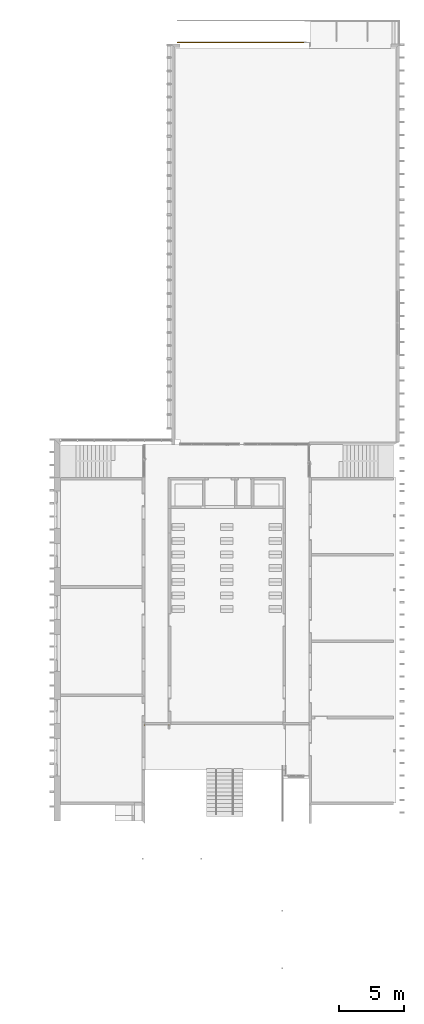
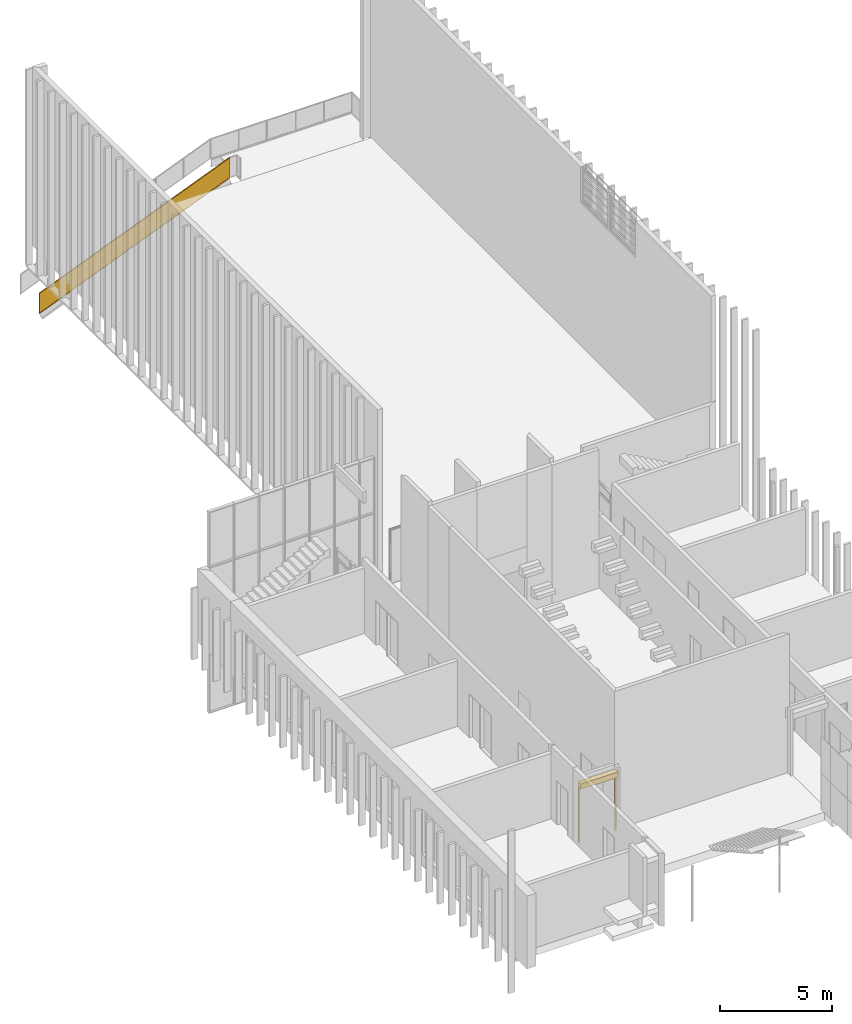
# One storey, part 59 of 62: 1 door, 1 railing.
"""IFC2X3 building model written with IfcOpenShell, lengths in millimetres."""

from ifc_helpers import new_model, entity, si_unit, converted_unit, derived_unit, money_unit, direction, frame, origin_with_axes, place, context, subcontext, project, spatial, faceted_brep, material, material_list, type_object, element, save


model = new_model("IFC2X3")

# Units and contexts
model_context = context("Model", 3, precision=0.01, world=origin_with_axes(), true_north=direction((0.0, 1.0)))
body_context = subcontext(model_context, "Body", "Model", "MODEL_VIEW")
ifc_project = project(units=[si_unit("LENGTHUNIT", "METRE", prefix="MILLI"), si_unit("AREAUNIT", "SQUARE_METRE"), si_unit("VOLUMEUNIT", "CUBIC_METRE"), converted_unit("PLANEANGLEUNIT", "DEGREE", entity("IfcPlaneAngleMeasure", 0.0174532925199), si_unit("PLANEANGLEUNIT", "RADIAN"), dimensions=[0, 0, 0, 0, 0, 0, 0]), si_unit("SOLIDANGLEUNIT", "STERADIAN"), money_unit("EUR"), converted_unit("TIMEUNIT", "Year", entity("IfcTimeMeasure", 31556926.0), si_unit("TIMEUNIT", "SECOND"), dimensions=[0, 0, 1, 0, 0, 0, 0]), si_unit("MASSUNIT", "GRAM", prefix="KILO"), si_unit("THERMODYNAMICTEMPERATUREUNIT", "DEGREE_CELSIUS"), si_unit("LUMINOUSINTENSITYUNIT", "LUMEN"), si_unit("ENERGYUNIT", "JOULE", prefix="MEGA"), derived_unit("THERMALCONDUCTANCEUNIT", [(si_unit("POWERUNIT", "WATT"), 1), (si_unit("LENGTHUNIT", "METRE"), -1), (si_unit("THERMODYNAMICTEMPERATUREUNIT", "KELVIN"), -1)]), derived_unit("SPECIFICHEATCAPACITYUNIT", [(si_unit("ENERGYUNIT", "JOULE"), 1), (si_unit("MASSUNIT", "GRAM", prefix="KILO"), -1), (si_unit("THERMODYNAMICTEMPERATUREUNIT", "KELVIN"), -1)]), derived_unit("MASSDENSITYUNIT", [(si_unit("MASSUNIT", "GRAM", prefix="KILO"), 1), (si_unit("VOLUMEUNIT", "CUBIC_METRE"), -1)])], contexts=[model_context])

# Site, building, storey
site_placement = place(None, origin_with_axes())
site = spatial("IfcSite", under=ifc_project, at=site_placement, Name="Puškini 31, Narva", CompositionType="ELEMENT")
building_placement = place(site_placement, origin_with_axes())
building = spatial("IfcBuilding", under=site, at=building_placement, Name="Narva Riigigümnaasium", CompositionType="ELEMENT")
storey_placement = place(building_placement, frame((0.0, 0.0, 660.0), z_axis=(0.0, 0.0, 1.0), x_axis=(1.0, 0.0, 0.0)))
storey = spatial("IfcBuildingStorey", under=building, at=storey_placement, Name="2.korrus +0.66", CompositionType="ELEMENT", Elevation=660.0)

# Door
ifc_material_1 = material(Name="ET-05_Teras")
door_style = type_object("IfcDoorStyle", Name="TTK-3", ConstructionType="NOTDEFINED", OperationType="NOTDEFINED", ParameterTakesPrecedence=False, Sizeable=False)
door_placement = place(storey_placement, frame((34819.9997369, 202065.000012, 0.0), z_axis=(0.0, 0.0, 1.0), x_axis=(1.0, 0.0, 0.0)))
element("IfcDoor", 1, at=door_placement, inside=storey, type_object=door_style, material=ifc_material_1, Name="Tuletõkkekardin", ObjectType="DOOR", context=body_context, shape_type="Brep", body=[
    faceted_brep([(0.0, 0.0, 3005.0), (1959.99988526, 0.0, 3005.0), (1959.99988526, 0.0, 3295.0), (0.0, 0.0, 3295.0), (0.0, 235.0, 3005.0), (1959.99988526, 235.0, 3005.0), (1959.99988526, 235.0, 3295.0), (0.0, 235.0, 3295.0)], [[[0, 1, 2, 3]], [[0, 4, 5, 1]], [[1, 5, 6, 2]], [[3, 2, 6, 7]], [[4, 0, 3, 7]], [[5, 4, 7, 6]]]),
    faceted_brep([(0.0, 175.0, 0.0), (79.9998985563, 175.0, 0.0), (79.9998985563, 175.0, 3005.0), (0.0, 175.0, 3005.0), (0.0, 235.0, 0.0), (79.9998985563, 235.0, 0.0), (79.9998985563, 235.0, 3005.0), (0.0, 235.0, 3005.0)], [[[0, 1, 2, 3]], [[0, 4, 5, 1]], [[1, 5, 6, 2]], [[3, 2, 6, 7]], [[4, 0, 3, 7]], [[5, 4, 7, 6]]]),
    faceted_brep([(1879.99998671, 175.0, 0.0), (1959.99988526, 175.0, 0.0), (1959.99988526, 175.0, 3005.0), (1879.99998671, 175.0, 3005.0), (1879.99998671, 235.0, 0.0), (1959.99988526, 235.0, 0.0), (1959.99988526, 235.0, 3005.0), (1879.99998671, 235.0, 3005.0)], [[[0, 1, 2, 3]], [[0, 4, 5, 1]], [[1, 5, 6, 2]], [[3, 2, 6, 7]], [[4, 0, 3, 7]], [[5, 4, 7, 6]]]),
])

# Railing
ifc_material_2 = material(Name="ET-07_Teras - Roostevaba")
ifc_material_3 = material(Name="ET-03_Raud")
ifc_material_4 = material(Name="Alumiiniumprofiil")
ifc_material_5 = material(Name="Salto-võrk")
ifc_material_6 = material(Name="ET-06_Teras - Konstruktsioon")
ifc_material_list = material_list([ifc_material_2, ifc_material_2, ifc_material_3, ifc_material_4, ifc_material_5, ifc_material_6, ifc_material_4, ifc_material_5, ifc_material_6, ifc_material_4, ifc_material_5, ifc_material_6, ifc_material_4, ifc_material_5, ifc_material_6, ifc_material_4, ifc_material_5, ifc_material_6, ifc_material_4, ifc_material_5, ifc_material_6, ifc_material_4, ifc_material_5, ifc_material_6, ifc_material_4, ifc_material_5])
railing_type = type_object("IfcRailingType", Name="Railing Type", PredefinedType="NOTDEFINED")
railing_placement = place(storey_placement, frame((47205.0000002, 254690.0, -3943.14809538), z_axis=(0.0, 0.0, 1.0), x_axis=(1.0, 0.0, 0.0)))
element("IfcRailing", 2, at=railing_placement, inside=storey, type_object=railing_type, material=ifc_material_list, Name="Piire", PredefinedType="NOTDEFINED", context=body_context, shape_type="Brep", body=[
    faceted_brep([(-43.3044717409, 30.0, 3941.12839087), (-43.3044717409, -30.0, 3941.12839087), (-43.3044717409, -30.0, 5041.12839087), (-43.3044717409, 30.0, 5041.12839087), (-33.3044717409, 30.0, 3945.16779989), (-33.3044717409, -30.0, 3945.16779989), (-33.3044717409, -30.0, 5045.16779989), (-33.3044717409, 30.0, 5045.16779989)], [[[0, 1, 2, 3]], [[0, 4, 5, 1]], [[1, 5, 6, 2]], [[3, 2, 6, 7]], [[4, 0, 3, 7]], [[5, 4, 7, 6]]]),
    faceted_brep([(-9804.99999821, 30.0, -2.01970450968), (-9804.99999821, -30.0, -2.01970450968), (-9804.99999821, -30.0, 1097.98029549), (-9804.99999821, 30.0, 1097.98029549), (-9794.99999821, 30.0, 2.01970450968), (-9794.99999821, -30.0, 2.01970450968), (-9794.99999821, -30.0, 1102.01970451), (-9794.99999821, 30.0, 1102.01970451)], [[[0, 1, 2, 3]], [[0, 4, 5, 1]], [[1, 5, 6, 2]], [[3, 2, 6, 7]], [[4, 0, 3, 7]], [[5, 4, 7, 6]]]),
    faceted_brep([(-38.3044717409, 30.0, 5043.14809538), (-30.813700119, 30.0, 5024.60386877), (-9792.50922659, 30.0, 1081.45577339), (-9799.99999821, 30.0, 1100.0), (-38.3044717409, -30.0, 5043.14809538), (-30.813700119, -30.0, 5024.60386877), (-9792.50922659, -30.0, 1081.45577339), (-9799.99999821, -30.0, 1100.0)], [[[0, 1, 2, 3]], [[0, 4, 5, 1]], [[1, 5, 6, 2]], [[3, 2, 6, 7]], [[4, 0, 3, 7]], [[5, 4, 7, 6]]]),
    faceted_brep([(-1248.51641255, -30.0, 3454.29399248), (-48.3044717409, -30.0, 3939.10868636), (-48.3044717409, -30.0, 5019.10868636), (-1248.51641255, -30.0, 4534.29399248), (-78.3044717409, -30.0, 4974.63537582), (-78.3044717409, -30.0, 3959.34554278), (-1218.51641255, -30.0, 3498.76730302), (-1218.51641255, -30.0, 4514.05713606), (-1248.51641255, 0.0, 3454.29399248), (-48.3044717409, 0.0, 3939.10868636), (-48.3044717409, 0.0, 5019.10868636), (-1248.51641255, 0.0, 4534.29399248), (-78.3044717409, 0.0, 3959.34554278), (-78.3044717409, 0.0, 4974.63537582), (-1218.51641255, 0.0, 3498.76730302), (-1218.51641255, 0.0, 4514.05713606)], [[[0, 1, 2, 3], [4, 5, 6, 7]], [[1, 0, 8, 9]], [[10, 2, 1, 9]], [[11, 3, 2, 10]], [[0, 3, 11, 8]], [[12, 5, 4, 13]], [[6, 5, 12, 14]], [[7, 6, 14, 15]], [[13, 4, 7, 15]], [[10, 9, 8, 11], [14, 12, 13, 15]]]),
    faceted_brep([(-1218.51641255, -17.5, 3498.76730302), (-78.3044717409, -17.5, 3959.34554278), (-78.3044717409, -17.5, 4974.63537582), (-1218.51641255, -17.5, 4514.05713606), (-1218.51641255, -12.5, 3498.76730302), (-78.3044717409, -12.5, 3959.34554278), (-78.3044717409, -12.5, 4974.63537582), (-1218.51641255, -12.5, 4514.05713606)], [[[0, 1, 2, 3]], [[1, 0, 4, 5]], [[6, 2, 1, 5]], [[7, 3, 2, 6]], [[0, 3, 7, 4]], [[6, 5, 4, 7]]]),
    faceted_brep([(-1268.51641255, 30.0, 3446.21517444), (-1268.51641255, -30.0, 3446.21517444), (-1268.51641255, -30.0, 4546.21517444), (-1268.51641255, 30.0, 4546.21517444), (-1248.51641255, 30.0, 3454.29399248), (-1248.51641255, -30.0, 3454.29399248), (-1248.51641255, -30.0, 4554.29399248), (-1248.51641255, 30.0, 4554.29399248)], [[[0, 1, 2, 3]], [[0, 4, 5, 1]], [[1, 5, 6, 2]], [[3, 2, 6, 7]], [[4, 0, 3, 7]], [[5, 4, 7, 6]]]),
    faceted_brep([(-2468.72835336, -30.0, 2961.40048055), (-1268.51641255, -30.0, 3446.21517444), (-1268.51641255, -30.0, 4526.21517444), (-2468.72835336, -30.0, 4041.40048055), (-1298.51641255, -30.0, 4481.7418639), (-1298.51641255, -30.0, 3466.45203086), (-2438.72835336, -30.0, 3005.87379109), (-2438.72835336, -30.0, 4021.16362413), (-2468.72835336, 0.0, 2961.40048055), (-1268.51641255, 0.0, 3446.21517444), (-1268.51641255, 0.0, 4526.21517444), (-2468.72835336, 0.0, 4041.40048055), (-1298.51641255, 0.0, 3466.45203086), (-1298.51641255, 0.0, 4481.7418639), (-2438.72835336, 0.0, 3005.87379109), (-2438.72835336, 0.0, 4021.16362413)], [[[0, 1, 2, 3], [4, 5, 6, 7]], [[1, 0, 8, 9]], [[10, 2, 1, 9]], [[11, 3, 2, 10]], [[0, 3, 11, 8]], [[12, 5, 4, 13]], [[6, 5, 12, 14]], [[7, 6, 14, 15]], [[13, 4, 7, 15]], [[10, 9, 8, 11], [14, 12, 13, 15]]]),
    faceted_brep([(-2438.72835336, -17.5, 3005.87379109), (-1298.51641255, -17.5, 3466.45203086), (-1298.51641255, -17.5, 4481.7418639), (-2438.72835336, -17.5, 4021.16362413), (-2438.72835336, -12.5, 3005.87379109), (-1298.51641255, -12.5, 3466.45203086), (-1298.51641255, -12.5, 4481.7418639), (-2438.72835336, -12.5, 4021.16362413)], [[[0, 1, 2, 3]], [[1, 0, 4, 5]], [[6, 2, 1, 5]], [[7, 3, 2, 6]], [[0, 3, 7, 4]], [[6, 5, 4, 7]]]),
    faceted_brep([(-2488.72835336, 30.0, 2953.32166252), (-2488.72835336, -30.0, 2953.32166252), (-2488.72835336, -30.0, 4053.32166252), (-2488.72835336, 30.0, 4053.32166252), (-2468.72835336, 30.0, 2961.40048055), (-2468.72835336, -30.0, 2961.40048055), (-2468.72835336, -30.0, 4061.40048055), (-2468.72835336, 30.0, 4061.40048055)], [[[0, 1, 2, 3]], [[0, 4, 5, 1]], [[1, 5, 6, 2]], [[3, 2, 6, 7]], [[4, 0, 3, 7]], [[5, 4, 7, 6]]]),
    faceted_brep([(-3688.94029417, -30.0, 2468.50696863), (-2488.72835336, -30.0, 2953.32166252), (-2488.72835336, -30.0, 4033.32166252), (-3688.94029417, -30.0, 3548.50696863), (-2518.72835336, -30.0, 3988.84835198), (-2518.72835336, -30.0, 2973.55851894), (-3658.94029417, -30.0, 2512.98027917), (-3658.94029417, -30.0, 3528.27011221), (-3688.94029417, 0.0, 2468.50696863), (-2488.72835336, 0.0, 2953.32166252), (-2488.72835336, 0.0, 4033.32166252), (-3688.94029417, 0.0, 3548.50696863), (-2518.72835336, 0.0, 2973.55851894), (-2518.72835336, 0.0, 3988.84835198), (-3658.94029417, 0.0, 2512.98027917), (-3658.94029417, 0.0, 3528.27011221)], [[[0, 1, 2, 3], [4, 5, 6, 7]], [[1, 0, 8, 9]], [[10, 2, 1, 9]], [[11, 3, 2, 10]], [[0, 3, 11, 8]], [[12, 5, 4, 13]], [[6, 5, 12, 14]], [[7, 6, 14, 15]], [[13, 4, 7, 15]], [[10, 9, 8, 11], [14, 12, 13, 15]]]),
    faceted_brep([(-3658.94029417, -17.5, 2512.98027917), (-2518.72835336, -17.5, 2973.55851894), (-2518.72835336, -17.5, 3988.84835198), (-3658.94029417, -17.5, 3528.27011221), (-3658.94029417, -12.5, 2512.98027917), (-2518.72835336, -12.5, 2973.55851894), (-2518.72835336, -12.5, 3988.84835198), (-3658.94029417, -12.5, 3528.27011221)], [[[0, 1, 2, 3]], [[1, 0, 4, 5]], [[6, 2, 1, 5]], [[7, 3, 2, 6]], [[0, 3, 7, 4]], [[6, 5, 4, 7]]]),
    faceted_brep([(-3708.94029417, 30.0, 2460.42815059), (-3708.94029417, -30.0, 2460.42815059), (-3708.94029417, -30.0, 3560.42815059), (-3708.94029417, 30.0, 3560.42815059), (-3688.94029417, 30.0, 2468.50696863), (-3688.94029417, -30.0, 2468.50696863), (-3688.94029417, -30.0, 3568.50696863), (-3688.94029417, 30.0, 3568.50696863)], [[[0, 1, 2, 3]], [[0, 4, 5, 1]], [[1, 5, 6, 2]], [[3, 2, 6, 7]], [[4, 0, 3, 7]], [[5, 4, 7, 6]]]),
    faceted_brep([(-4909.15223497, -30.0, 1975.61345671), (-3708.94029417, -30.0, 2460.42815059), (-3708.94029417, -30.0, 3540.42815059), (-4909.15223497, -30.0, 3055.61345671), (-3738.94029417, -30.0, 3495.95484006), (-3738.94029417, -30.0, 2480.66500702), (-4879.15223497, -30.0, 2020.08676725), (-4879.15223497, -30.0, 3035.37660029), (-4909.15223497, 0.0, 1975.61345671), (-3708.94029417, 0.0, 2460.42815059), (-3708.94029417, 0.0, 3540.42815059), (-4909.15223497, 0.0, 3055.61345671), (-3738.94029417, 0.0, 2480.66500702), (-3738.94029417, 0.0, 3495.95484006), (-4879.15223497, 0.0, 2020.08676725), (-4879.15223497, 0.0, 3035.37660029)], [[[0, 1, 2, 3], [4, 5, 6, 7]], [[1, 0, 8, 9]], [[10, 2, 1, 9]], [[11, 3, 2, 10]], [[0, 3, 11, 8]], [[12, 5, 4, 13]], [[6, 5, 12, 14]], [[7, 6, 14, 15]], [[13, 4, 7, 15]], [[10, 9, 8, 11], [14, 12, 13, 15]]]),
    faceted_brep([(-4879.15223497, -17.5, 2020.08676725), (-3738.94029417, -17.5, 2480.66500702), (-3738.94029417, -17.5, 3495.95484006), (-4879.15223497, -17.5, 3035.37660029), (-4879.15223497, -12.5, 2020.08676725), (-3738.94029417, -12.5, 2480.66500702), (-3738.94029417, -12.5, 3495.95484006), (-4879.15223497, -12.5, 3035.37660029)], [[[0, 1, 2, 3]], [[1, 0, 4, 5]], [[6, 2, 1, 5]], [[7, 3, 2, 6]], [[0, 3, 7, 4]], [[6, 5, 4, 7]]]),
    faceted_brep([(-4929.15223497, 30.0, 1967.53463867), (-4929.15223497, -30.0, 1967.53463867), (-4929.15223497, -30.0, 3067.53463867), (-4929.15223497, 30.0, 3067.53463867), (-4909.15223497, 30.0, 1975.61345671), (-4909.15223497, -30.0, 1975.61345671), (-4909.15223497, -30.0, 3075.61345671), (-4909.15223497, 30.0, 3075.61345671)], [[[0, 1, 2, 3]], [[0, 4, 5, 1]], [[1, 5, 6, 2]], [[3, 2, 6, 7]], [[4, 0, 3, 7]], [[5, 4, 7, 6]]]),
    faceted_brep([(-6129.36417578, -30.0, 1482.71994479), (-4929.15223497, -30.0, 1967.53463867), (-4929.15223497, -30.0, 3047.53463867), (-6129.36417578, -30.0, 2562.71994479), (-4959.15223497, -30.0, 3003.06132813), (-4959.15223497, -30.0, 1987.77149509), (-6099.36417578, -30.0, 1527.19325533), (-6099.36417578, -30.0, 2542.48308836), (-6129.36417578, 0.0, 1482.71994479), (-4929.15223497, 0.0, 1967.53463867), (-4929.15223497, 0.0, 3047.53463867), (-6129.36417578, 0.0, 2562.71994479), (-4959.15223497, 0.0, 1987.77149509), (-4959.15223497, 0.0, 3003.06132813), (-6099.36417578, 0.0, 1527.19325533), (-6099.36417578, 0.0, 2542.48308836)], [[[0, 1, 2, 3], [4, 5, 6, 7]], [[1, 0, 8, 9]], [[10, 2, 1, 9]], [[11, 3, 2, 10]], [[0, 3, 11, 8]], [[12, 5, 4, 13]], [[6, 5, 12, 14]], [[7, 6, 14, 15]], [[13, 4, 7, 15]], [[10, 9, 8, 11], [14, 12, 13, 15]]]),
    faceted_brep([(-6099.36417578, -17.5, 1527.19325533), (-4959.15223497, -17.5, 1987.77149509), (-4959.15223497, -17.5, 3003.06132813), (-6099.36417578, -17.5, 2542.48308836), (-6099.36417578, -12.5, 1527.19325533), (-4959.15223497, -12.5, 1987.77149509), (-4959.15223497, -12.5, 3003.06132813), (-6099.36417578, -12.5, 2542.48308836)], [[[0, 1, 2, 3]], [[1, 0, 4, 5]], [[6, 2, 1, 5]], [[7, 3, 2, 6]], [[0, 3, 7, 4]], [[6, 5, 4, 7]]]),
    faceted_brep([(-6149.36417578, 30.0, 1474.64112675), (-6149.36417578, -30.0, 1474.64112675), (-6149.36417578, -30.0, 2574.64112675), (-6149.36417578, 30.0, 2574.64112675), (-6129.36417578, 30.0, 1482.71994479), (-6129.36417578, -30.0, 1482.71994479), (-6129.36417578, -30.0, 2582.71994479), (-6129.36417578, 30.0, 2582.71994479)], [[[0, 1, 2, 3]], [[0, 4, 5, 1]], [[1, 5, 6, 2]], [[3, 2, 6, 7]], [[4, 0, 3, 7]], [[5, 4, 7, 6]]]),
    faceted_brep([(-7349.57611659, -30.0, 989.826432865), (-6149.36417578, -30.0, 1474.64112675), (-6149.36417578, -30.0, 2554.64112675), (-7349.57611659, -30.0, 2069.82643286), (-6179.36417578, -30.0, 2510.16781621), (-6179.36417578, -30.0, 1494.87798317), (-7319.57611659, -30.0, 1034.2997434), (-7319.57611659, -30.0, 2049.58957644), (-7349.57611659, 0.0, 989.826432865), (-6149.36417578, 0.0, 1474.64112675), (-6149.36417578, 0.0, 2554.64112675), (-7349.57611659, 0.0, 2069.82643286), (-6179.36417578, 0.0, 1494.87798317), (-6179.36417578, 0.0, 2510.16781621), (-7319.57611659, 0.0, 1034.2997434), (-7319.57611659, 0.0, 2049.58957644)], [[[0, 1, 2, 3], [4, 5, 6, 7]], [[1, 0, 8, 9]], [[10, 2, 1, 9]], [[11, 3, 2, 10]], [[0, 3, 11, 8]], [[12, 5, 4, 13]], [[6, 5, 12, 14]], [[7, 6, 14, 15]], [[13, 4, 7, 15]], [[10, 9, 8, 11], [14, 12, 13, 15]]]),
    faceted_brep([(-7319.57611659, -17.5, 1034.2997434), (-6179.36417578, -17.5, 1494.87798317), (-6179.36417578, -17.5, 2510.16781621), (-7319.57611659, -17.5, 2049.58957644), (-7319.57611659, -12.5, 1034.2997434), (-6179.36417578, -12.5, 1494.87798317), (-6179.36417578, -12.5, 2510.16781621), (-7319.57611659, -12.5, 2049.58957644)], [[[0, 1, 2, 3]], [[1, 0, 4, 5]], [[6, 2, 1, 5]], [[7, 3, 2, 6]], [[0, 3, 7, 4]], [[6, 5, 4, 7]]]),
    faceted_brep([(-7369.57611659, 30.0, 981.747614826), (-7369.57611659, -30.0, 981.747614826), (-7369.57611659, -30.0, 2081.74761483), (-7369.57611659, 30.0, 2081.74761483), (-7349.57611659, 30.0, 989.826432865), (-7349.57611659, -30.0, 989.826432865), (-7349.57611659, -30.0, 2089.82643286), (-7349.57611659, 30.0, 2089.82643286)], [[[0, 1, 2, 3]], [[0, 4, 5, 1]], [[1, 5, 6, 2]], [[3, 2, 6, 7]], [[4, 0, 3, 7]], [[5, 4, 7, 6]]]),
    faceted_brep([(-8569.7880574, -30.0, 496.932920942), (-7369.57611659, -30.0, 981.747614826), (-7369.57611659, -30.0, 2061.74761483), (-8569.7880574, -30.0, 1576.93292094), (-7399.57611659, -30.0, 2017.27430429), (-7399.57611659, -30.0, 1001.98447125), (-8539.7880574, -30.0, 541.406231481), (-8539.7880574, -30.0, 1556.69606452), (-8569.7880574, 0.0, 496.932920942), (-7369.57611659, 0.0, 981.747614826), (-7369.57611659, 0.0, 2061.74761483), (-8569.7880574, 0.0, 1576.93292094), (-7399.57611659, 0.0, 1001.98447125), (-7399.57611659, 0.0, 2017.27430429), (-8539.7880574, 0.0, 541.406231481), (-8539.7880574, 0.0, 1556.69606452)], [[[0, 1, 2, 3], [4, 5, 6, 7]], [[1, 0, 8, 9]], [[10, 2, 1, 9]], [[11, 3, 2, 10]], [[0, 3, 11, 8]], [[12, 5, 4, 13]], [[6, 5, 12, 14]], [[7, 6, 14, 15]], [[13, 4, 7, 15]], [[10, 9, 8, 11], [14, 12, 13, 15]]]),
    faceted_brep([(-8539.7880574, -17.5, 541.406231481), (-7399.57611659, -17.5, 1001.98447125), (-7399.57611659, -17.5, 2017.27430429), (-8539.7880574, -17.5, 1556.69606452), (-8539.7880574, -12.5, 541.406231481), (-7399.57611659, -12.5, 1001.98447125), (-7399.57611659, -12.5, 2017.27430429), (-8539.7880574, -12.5, 1556.69606452)], [[[0, 1, 2, 3]], [[1, 0, 4, 5]], [[6, 2, 1, 5]], [[7, 3, 2, 6]], [[0, 3, 7, 4]], [[6, 5, 4, 7]]]),
    faceted_brep([(-8589.7880574, 30.0, 488.854102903), (-8589.7880574, -30.0, 488.854102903), (-8589.7880574, -30.0, 1588.8541029), (-8589.7880574, 30.0, 1588.8541029), (-8569.7880574, 30.0, 496.932920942), (-8569.7880574, -30.0, 496.932920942), (-8569.7880574, -30.0, 1596.93292094), (-8569.7880574, 30.0, 1596.93292094)], [[[0, 1, 2, 3]], [[0, 4, 5, 1]], [[1, 5, 6, 2]], [[3, 2, 6, 7]], [[4, 0, 3, 7]], [[5, 4, 7, 6]]]),
    faceted_brep([(-9789.99999821, -30.0, 4.03940901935), (-8589.7880574, -30.0, 488.854102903), (-8589.7880574, -30.0, 1568.8541029), (-9789.99999821, -30.0, 1084.03940902), (-8619.7880574, -30.0, 1524.38079236), (-8619.7880574, -30.0, 509.090959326), (-9759.99999821, -30.0, 48.5127195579), (-9759.99999821, -30.0, 1063.8025526), (-9789.99999821, 0.0, 4.03940901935), (-8589.7880574, 0.0, 488.854102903), (-8589.7880574, 0.0, 1568.8541029), (-9789.99999821, 0.0, 1084.03940902), (-8619.7880574, 0.0, 509.090959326), (-8619.7880574, 0.0, 1524.38079236), (-9759.99999821, 0.0, 48.5127195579), (-9759.99999821, 0.0, 1063.8025526)], [[[0, 1, 2, 3], [4, 5, 6, 7]], [[1, 0, 8, 9]], [[10, 2, 1, 9]], [[11, 3, 2, 10]], [[0, 3, 11, 8]], [[12, 5, 4, 13]], [[6, 5, 12, 14]], [[7, 6, 14, 15]], [[13, 4, 7, 15]], [[10, 9, 8, 11], [14, 12, 13, 15]]]),
    faceted_brep([(-9759.99999821, -17.5, 48.5127195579), (-8619.7880574, -17.5, 509.090959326), (-8619.7880574, -17.5, 1524.38079236), (-9759.99999821, -17.5, 1063.8025526), (-9759.99999821, -12.5, 48.5127195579), (-8619.7880574, -12.5, 509.090959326), (-8619.7880574, -12.5, 1524.38079236), (-9759.99999821, -12.5, 1063.8025526)], [[[0, 1, 2, 3]], [[1, 0, 4, 5]], [[6, 2, 1, 5]], [[7, 3, 2, 6]], [[0, 3, 7, 4]], [[6, 5, 4, 7]]]),
])

save(model, "model.ifc")
